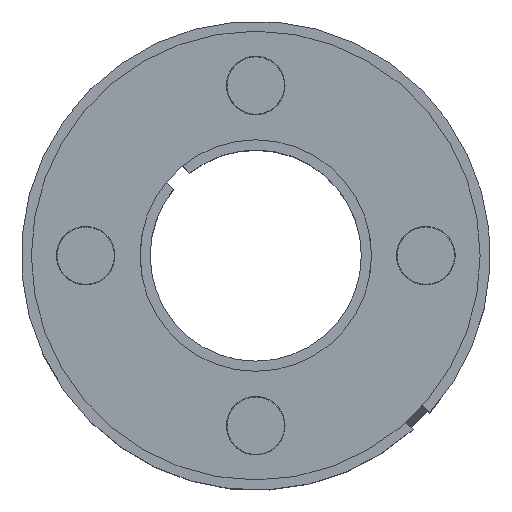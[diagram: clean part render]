
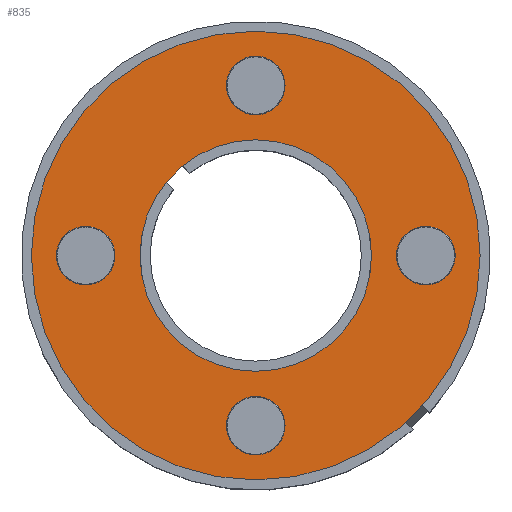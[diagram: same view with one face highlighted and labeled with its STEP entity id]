
A CAD part, top view. The second image highlights one B-rep face of the part: STEP entity #835.
In plain terms, the highlighted planar face has unit normal (0, 0, 1).
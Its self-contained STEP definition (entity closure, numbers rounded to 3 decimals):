
#95 = DIRECTION ( 'NONE',  ( -1., 0., 0. ) ) ;
#136 = DIRECTION ( 'NONE',  ( 0., 0., -1. ) ) ;
#152 = VERTEX_POINT ( 'NONE', #788 ) ;
#234 = DIRECTION ( 'NONE',  ( -1., 0., 0. ) ) ;
#283 = EDGE_CURVE ( 'NONE', #3918, #3797, #3034, .T. ) ;
#301 = CARTESIAN_POINT ( 'NONE',  ( 0., 0., 16.986 ) ) ;
#304 = CIRCLE ( 'NONE', #6625, 9.868 ) ;
#448 = CARTESIAN_POINT ( 'NONE',  ( 2.5, -14.5, 16.986 ) ) ;
#485 = FACE_BOUND ( 'NONE', #3205, .T. ) ;
#511 = CARTESIAN_POINT ( 'NONE',  ( -19.13, 0., 16.986 ) ) ;
#560 = EDGE_LOOP ( 'NONE', ( #3263, #854 ) ) ;
#587 = CARTESIAN_POINT ( 'NONE',  ( -14.5, 0., 16.986 ) ) ;
#750 = ORIENTED_EDGE ( 'NONE', *, *, #4973, .T. ) ;
#788 = CARTESIAN_POINT ( 'NONE',  ( -9.868, 0., 16.986 ) ) ;
#835 = ADVANCED_FACE ( 'NONE', ( #485, #2607, #2025, #1141, #4321, #4828 ), #4697, .F. ) ;
#848 = DIRECTION ( 'NONE',  ( 0., 0., -1. ) ) ;
#854 = ORIENTED_EDGE ( 'NONE', *, *, #5970, .F. ) ;
#965 = DIRECTION ( 'NONE',  ( -1., 0., 0. ) ) ;
#974 = CARTESIAN_POINT ( 'NONE',  ( 12., 0., 16.986 ) ) ;
#984 = CARTESIAN_POINT ( 'NONE',  ( 0., 0., 16.986 ) ) ;
#1036 = EDGE_CURVE ( 'NONE', #152, #2738, #304, .T. ) ;
#1141 = FACE_BOUND ( 'NONE', #4209, .T. ) ;
#1144 = DIRECTION ( 'NONE',  ( 0., 0., -1. ) ) ;
#1296 = CARTESIAN_POINT ( 'NONE',  ( 17., 0., 16.986 ) ) ;
#1333 = DIRECTION ( 'NONE',  ( 0., 0., -1. ) ) ;
#1450 = DIRECTION ( 'NONE',  ( 0., 0., -1. ) ) ;
#1498 = VERTEX_POINT ( 'NONE', #974 ) ;
#1522 = ORIENTED_EDGE ( 'NONE', *, *, #4389, .T. ) ;
#1528 = AXIS2_PLACEMENT_3D ( 'NONE', #6970, #5356, #3696 ) ;
#1535 = CIRCLE ( 'NONE', #2956, 2.5 ) ;
#1543 = CARTESIAN_POINT ( 'NONE',  ( 0., 14.5, 16.986 ) ) ;
#1609 = DIRECTION ( 'NONE',  ( 0., 0., -1. ) ) ;
#1631 = VERTEX_POINT ( 'NONE', #1296 ) ;
#1685 = CIRCLE ( 'NONE', #3277, 2.5 ) ;
#1705 = AXIS2_PLACEMENT_3D ( 'NONE', #6107, #2722, #965 ) ;
#1868 = VERTEX_POINT ( 'NONE', #511 ) ;
#1884 = EDGE_CURVE ( 'NONE', #2738, #152, #5991, .T. ) ;
#1914 = CARTESIAN_POINT ( 'NONE',  ( -17., 0., 16.986 ) ) ;
#1980 = CIRCLE ( 'NONE', #1528, 19.13 ) ;
#2025 = FACE_BOUND ( 'NONE', #2574, .T. ) ;
#2061 = VERTEX_POINT ( 'NONE', #3035 ) ;
#2062 = EDGE_LOOP ( 'NONE', ( #3302, #4203 ) ) ;
#2162 = EDGE_CURVE ( 'NONE', #2304, #4120, #1685, .T. ) ;
#2304 = VERTEX_POINT ( 'NONE', #3268 ) ;
#2353 = DIRECTION ( 'NONE',  ( 0., 0., -1. ) ) ;
#2489 = ORIENTED_EDGE ( 'NONE', *, *, #7047, .T. ) ;
#2535 = DIRECTION ( 'NONE',  ( -1., 0., 0. ) ) ;
#2536 = AXIS2_PLACEMENT_3D ( 'NONE', #5800, #1333, #234 ) ;
#2546 = CARTESIAN_POINT ( 'NONE',  ( 0., 0., 16.986 ) ) ;
#2574 = EDGE_LOOP ( 'NONE', ( #2489, #750 ) ) ;
#2576 = DIRECTION ( 'NONE',  ( 0., 0., -1. ) ) ;
#2581 = CARTESIAN_POINT ( 'NONE',  ( 0., 14.5, 16.986 ) ) ;
#2607 = FACE_BOUND ( 'NONE', #4953, .T. ) ;
#2610 = AXIS2_PLACEMENT_3D ( 'NONE', #2546, #6367, #3090 ) ;
#2667 = EDGE_CURVE ( 'NONE', #1868, #2061, #4849, .T. ) ;
#2707 = CIRCLE ( 'NONE', #1705, 2.5 ) ;
#2722 = DIRECTION ( 'NONE',  ( 0., 0., -1. ) ) ;
#2738 = VERTEX_POINT ( 'NONE', #4632 ) ;
#2795 = DIRECTION ( 'NONE',  ( -1., 0., 0. ) ) ;
#2945 = CARTESIAN_POINT ( 'NONE',  ( 14.5, 0., 16.986 ) ) ;
#2956 = AXIS2_PLACEMENT_3D ( 'NONE', #1543, #136, #6114 ) ;
#3013 = DIRECTION ( 'NONE',  ( -1., 0., 0. ) ) ;
#3034 = CIRCLE ( 'NONE', #2536, 2.5 ) ;
#3035 = CARTESIAN_POINT ( 'NONE',  ( 19.13, 0., 16.986 ) ) ;
#3043 = DIRECTION ( 'NONE',  ( -1., 0., 0. ) ) ;
#3075 = ORIENTED_EDGE ( 'NONE', *, *, #283, .T. ) ;
#3090 = DIRECTION ( 'NONE',  ( -1., 0., 0. ) ) ;
#3111 = AXIS2_PLACEMENT_3D ( 'NONE', #301, #1450, #3043 ) ;
#3160 = CIRCLE ( 'NONE', #3212, 2.5 ) ;
#3205 = EDGE_LOOP ( 'NONE', ( #4337, #5078 ) ) ;
#3212 = AXIS2_PLACEMENT_3D ( 'NONE', #2581, #6353, #6224 ) ;
#3263 = ORIENTED_EDGE ( 'NONE', *, *, #2667, .F. ) ;
#3268 = CARTESIAN_POINT ( 'NONE',  ( -12., 0., 16.986 ) ) ;
#3277 = AXIS2_PLACEMENT_3D ( 'NONE', #587, #1144, #2795 ) ;
#3302 = ORIENTED_EDGE ( 'NONE', *, *, #1036, .T. ) ;
#3400 = ORIENTED_EDGE ( 'NONE', *, *, #5203, .T. ) ;
#3642 = DIRECTION ( 'NONE',  ( 0., 0., -1. ) ) ;
#3696 = DIRECTION ( 'NONE',  ( -1., 0., 0. ) ) ;
#3750 = AXIS2_PLACEMENT_3D ( 'NONE', #984, #2353, #3013 ) ;
#3797 = VERTEX_POINT ( 'NONE', #5487 ) ;
#3798 = AXIS2_PLACEMENT_3D ( 'NONE', #4128, #848, #4670 ) ;
#3807 = CARTESIAN_POINT ( 'NONE',  ( -2.5, 14.5, 16.986 ) ) ;
#3918 = VERTEX_POINT ( 'NONE', #448 ) ;
#4120 = VERTEX_POINT ( 'NONE', #1914 ) ;
#4128 = CARTESIAN_POINT ( 'NONE',  ( 14.5, 0., 16.986 ) ) ;
#4150 = CARTESIAN_POINT ( 'NONE',  ( 2.5, 14.5, 16.986 ) ) ;
#4154 = VERTEX_POINT ( 'NONE', #4150 ) ;
#4203 = ORIENTED_EDGE ( 'NONE', *, *, #1884, .T. ) ;
#4209 = EDGE_LOOP ( 'NONE', ( #6246, #1522 ) ) ;
#4321 = FACE_BOUND ( 'NONE', #2062, .T. ) ;
#4337 = ORIENTED_EDGE ( 'NONE', *, *, #5502, .T. ) ;
#4389 = EDGE_CURVE ( 'NONE', #4154, #4426, #3160, .T. ) ;
#4426 = VERTEX_POINT ( 'NONE', #3807 ) ;
#4632 = CARTESIAN_POINT ( 'NONE',  ( 9.868, 0., 16.986 ) ) ;
#4670 = DIRECTION ( 'NONE',  ( -1., 0., 0. ) ) ;
#4697 = PLANE ( 'NONE',  #2610 ) ;
#4828 = FACE_OUTER_BOUND ( 'NONE', #560, .T. ) ;
#4849 = CIRCLE ( 'NONE', #3111, 19.13 ) ;
#4953 = EDGE_LOOP ( 'NONE', ( #3400, #3075 ) ) ;
#4973 = EDGE_CURVE ( 'NONE', #1631, #1498, #6051, .T. ) ;
#5078 = ORIENTED_EDGE ( 'NONE', *, *, #2162, .T. ) ;
#5203 = EDGE_CURVE ( 'NONE', #3797, #3918, #6296, .T. ) ;
#5208 = AXIS2_PLACEMENT_3D ( 'NONE', #2945, #3642, #2535 ) ;
#5356 = DIRECTION ( 'NONE',  ( 0., 0., -1. ) ) ;
#5487 = CARTESIAN_POINT ( 'NONE',  ( -2.5, -14.5, 16.986 ) ) ;
#5502 = EDGE_CURVE ( 'NONE', #4120, #2304, #2707, .T. ) ;
#5800 = CARTESIAN_POINT ( 'NONE',  ( 0., -14.5, 16.986 ) ) ;
#5923 = EDGE_CURVE ( 'NONE', #4426, #4154, #1535, .T. ) ;
#5926 = AXIS2_PLACEMENT_3D ( 'NONE', #6652, #1609, #95 ) ;
#5970 = EDGE_CURVE ( 'NONE', #2061, #1868, #1980, .T. ) ;
#5991 = CIRCLE ( 'NONE', #3750, 9.868 ) ;
#6043 = CIRCLE ( 'NONE', #3798, 2.5 ) ;
#6051 = CIRCLE ( 'NONE', #5208, 2.5 ) ;
#6094 = DIRECTION ( 'NONE',  ( -1., 0., 0. ) ) ;
#6107 = CARTESIAN_POINT ( 'NONE',  ( -14.5, 0., 16.986 ) ) ;
#6114 = DIRECTION ( 'NONE',  ( -1., 0., 0. ) ) ;
#6224 = DIRECTION ( 'NONE',  ( -1., 0., 0. ) ) ;
#6246 = ORIENTED_EDGE ( 'NONE', *, *, #5923, .T. ) ;
#6296 = CIRCLE ( 'NONE', #5926, 2.5 ) ;
#6353 = DIRECTION ( 'NONE',  ( 0., 0., -1. ) ) ;
#6367 = DIRECTION ( 'NONE',  ( 0., 0., -1. ) ) ;
#6625 = AXIS2_PLACEMENT_3D ( 'NONE', #7045, #2576, #6094 ) ;
#6652 = CARTESIAN_POINT ( 'NONE',  ( 0., -14.5, 16.986 ) ) ;
#6970 = CARTESIAN_POINT ( 'NONE',  ( 0., 0., 16.986 ) ) ;
#7045 = CARTESIAN_POINT ( 'NONE',  ( 0., 0., 16.986 ) ) ;
#7047 = EDGE_CURVE ( 'NONE', #1498, #1631, #6043, .T. ) ;
